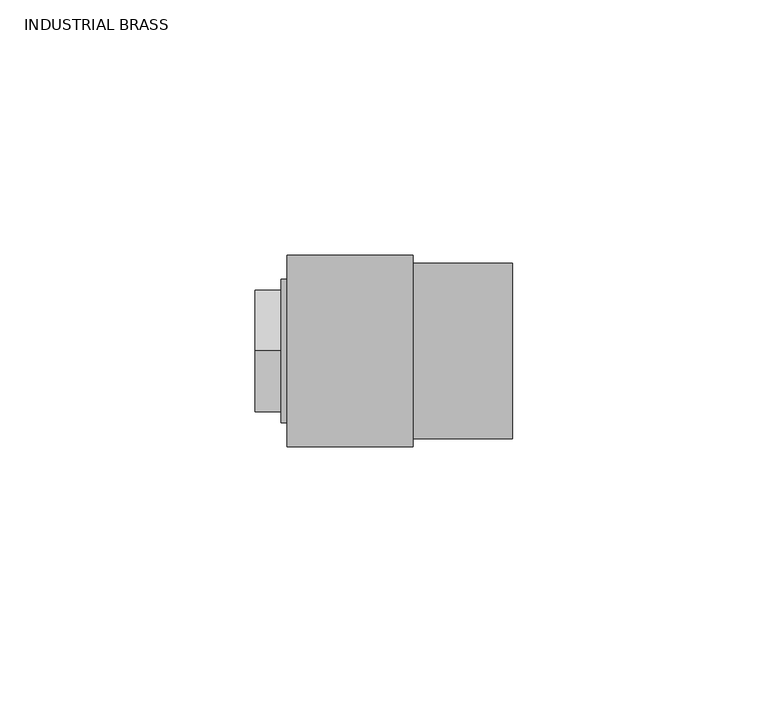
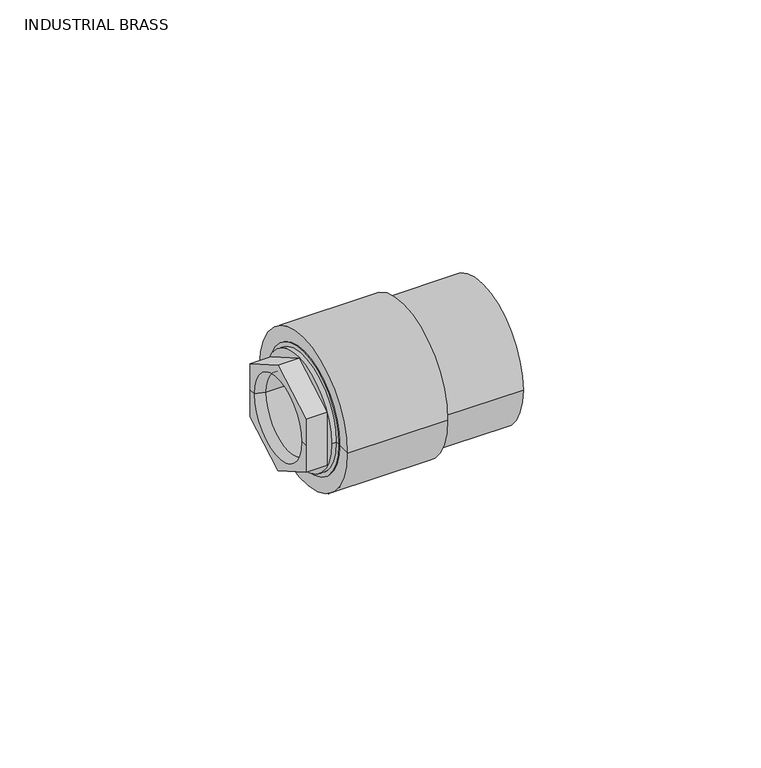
"""IFC4 building model written with IfcOpenShell, lengths in millimetres: valve geometry, Aquatherm - Transition Piece - F HEX : INDUSTRIAL BRASS."""

from ifc_helpers import new_model, si_unit, frame, origin, place, context, project, spatial, polyline, circle_curve, source, transform, mapped, element, save
from ifc_brep_helpers import plane_surface, cylinder_surface, revolved_surface, advanced_brep


def industrial_brass_3dd45f5a(model_context):
    return source(origin(), model_context, "Body", "AdvancedBrep", [
        advanced_brep(
        [(6.35, -9.525, 0.0), (6.35, 9.525, 0.0), (-3.7703125, 9.525, 0.0), (-3.7703125, -9.525, 0.0), (6.35, -10.31875, 0.0), (6.35, 10.31875, 0.0), (9.525, -10.31875, 0.0), (9.525, 10.31875, 0.0), (9.525, -6.35, 0.0), (9.525, 6.35, 0.0), (12.7, -6.35, 0.0), (12.7, 6.35, 0.0), (12.7, -15.113, 0.0), (12.7, 15.113, 0.0), (0.0, -15.113, 0.0), (0.0, 15.113, 0.0), (-6.35, -10.31875, 0.0), (-6.35, 10.31875, 0.0), (-6.35, 11.938, 0.0), (-6.35, 11.938, -6.8924075), (-6.35, 0.0, -13.784815), (-6.35, -11.938, -6.8924075), (-6.35, -11.938, 0.0), (-6.35, -11.938, 6.8924075), (-6.35, 0.0, 13.784815), (-6.35, 11.938, 6.8924075), (0.0, -14.097, 0.0), (0.0, 14.097, 0.0), (-1.190625, -14.097, 0.0), (-1.190625, 14.097, 0.0), (-1.190625, 0.0, -13.784815), (-1.190625, 11.938, -6.8924075), (-1.190625, 11.938, 6.8924075), (-1.190625, 0.0, 13.784815), (-1.190625, -11.938, 6.8924075), (-1.190625, -11.938, -6.8924075)],
        [
            (0, 1, circle_curve(frame((6.35, 0.0, 0.0), z_axis=(1.0, 0.0, 0.0), x_axis=(0.0, 1.0, 0.0)), 9.525)),
            (1, 2),
            (2, 3, circle_curve(frame((-3.7703125, 0.0, 0.0), z_axis=(-1.0, 0.0, 0.0), x_axis=(0.0, 1.0, 0.0)), 9.525)),
            (3, 0),
            (1, 0, circle_curve(frame((6.35, 0.0, 0.0), z_axis=(1.0, 0.0, 0.0), x_axis=(0.0, 1.0, 0.0)), 9.525)),
            (3, 2, circle_curve(frame((-3.7703125, 0.0, 0.0), z_axis=(-1.0, 0.0, 0.0), x_axis=(0.0, 1.0, 0.0)), 9.525)),
            (0, 4),
            (4, 5, circle_curve(frame((6.35, 0.0, 0.0), z_axis=(1.0, 0.0, 0.0), x_axis=(0.0, 1.0, 0.0)), 10.31875)),
            (5, 1),
            (5, 4, circle_curve(frame((6.35, 0.0, 0.0), z_axis=(1.0, 0.0, 0.0), x_axis=(0.0, 1.0, 0.0)), 10.31875)),
            (4, 6),
            (6, 7, circle_curve(frame((9.525, 0.0, 0.0), z_axis=(1.0, 0.0, 0.0), x_axis=(0.0, 1.0, 0.0)), 10.31875)),
            (7, 5),
            (7, 6, circle_curve(frame((9.525, 0.0, 0.0), z_axis=(1.0, 0.0, 0.0), x_axis=(0.0, 1.0, 0.0)), 10.31875)),
            (6, 8),
            (8, 9, circle_curve(frame((9.525, 0.0, 0.0), z_axis=(1.0, 0.0, 0.0), x_axis=(0.0, 1.0, 0.0)), 6.35)),
            (9, 7),
            (9, 8, circle_curve(frame((9.525, 0.0, 0.0), z_axis=(1.0, 0.0, 0.0), x_axis=(0.0, 1.0, 0.0)), 6.35)),
            (8, 10),
            (10, 11, circle_curve(frame((12.7, 0.0, 0.0), z_axis=(1.0, 0.0, 0.0), x_axis=(0.0, 1.0, 0.0)), 6.35)),
            (11, 9),
            (11, 10, circle_curve(frame((12.7, 0.0, 0.0), z_axis=(1.0, 0.0, 0.0), x_axis=(0.0, 1.0, 0.0)), 6.35)),
            (10, 12),
            (12, 13, circle_curve(frame((12.7, 0.0, 0.0), z_axis=(1.0, 0.0, 0.0), x_axis=(0.0, 1.0, 0.0)), 15.113)),
            (13, 11),
            (13, 12, circle_curve(frame((12.7, 0.0, 0.0), z_axis=(1.0, 0.0, 0.0), x_axis=(0.0, 1.0, 0.0)), 15.113)),
            (12, 14),
            (14, 15, circle_curve(frame((0.0, 0.0, 0.0), z_axis=(1.0, 0.0, 0.0), x_axis=(0.0, 1.0, 0.0)), 15.113)),
            (15, 13),
            (15, 14, circle_curve(frame((0.0, 0.0, 0.0), z_axis=(1.0, 0.0, 0.0), x_axis=(0.0, 1.0, 0.0)), 15.113)),
            (16, 17, circle_curve(frame((-6.35, 0.0, 0.0), z_axis=(1.0, 0.0, 0.0), x_axis=(0.0, 1.0, 0.0)), 10.31875)),
            (17, 18),
            (18, 19),
            (19, 20),
            (20, 21),
            (21, 22),
            (22, 16),
            (17, 16, circle_curve(frame((-6.35, 0.0, 0.0), z_axis=(1.0, 0.0, 0.0), x_axis=(0.0, 1.0, 0.0)), 10.31875)),
            (22, 23),
            (23, 24),
            (24, 25),
            (25, 18),
            (2, 17),
            (16, 3),
            (14, 26),
            (26, 27, circle_curve(frame((0.0, 0.0, 0.0), z_axis=(1.0, 0.0, 0.0), x_axis=(0.0, 1.0, 0.0)), 14.097)),
            (27, 15),
            (27, 26, circle_curve(frame((0.0, 0.0, 0.0), z_axis=(1.0, 0.0, 0.0), x_axis=(0.0, 1.0, 0.0)), 14.097)),
            (26, 28),
            (28, 29, circle_curve(frame((-1.190625, 0.0, 0.0), z_axis=(1.0, 0.0, 0.0), x_axis=(0.0, 1.0, 0.0)), 14.097)),
            (29, 27),
            (29, 28, circle_curve(frame((-1.190625, 0.0, 0.0), z_axis=(1.0, 0.0, 0.0), x_axis=(0.0, 1.0, 0.0)), 14.097)),
            (30, 31),
            (31, 32),
            (32, 33),
            (33, 34),
            (34, 35),
            (35, 30),
            (35, 21),
            (20, 30),
            (34, 23),
            (33, 24),
            (32, 25),
            (31, 19),
        ],
        [
            revolved_surface(polyline([(-3.7703125, 9.525, 0.0), (6.35, 9.525, 0.0)]), (-8.1832251, 0.0, 0.0), (-1.0, 0.0, 0.0)),
            plane_surface(frame((6.35, 0.0, 0.0), z_axis=(1.0, 0.0, 0.0), x_axis=(0.0, 1.0, 0.0))),
            revolved_surface(polyline([(6.35, 10.31875, 0.0), (9.525, 10.31875, 0.0)]), (-8.1832251, 0.0, 0.0), (-1.0, 0.0, 0.0)),
            plane_surface(frame((9.525, 0.0, 0.0), z_axis=(-1.0, 0.0, 0.0), x_axis=(0.0, 1.0, 0.0))),
            revolved_surface(polyline([(9.525, 6.35, 0.0), (12.699999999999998, 6.35, 0.0)]), (-8.1832251, 0.0, 0.0), (-1.0, 0.0, 0.0)),
            plane_surface(frame((12.7, 0.0, 0.0), z_axis=(1.0, 0.0, 0.0), x_axis=(0.0, 1.0, 0.0))),
            cylinder_surface(frame((-8.1832251, 0.0, 0.0), z_axis=(-1.0, 0.0, 0.0), x_axis=(0.0, 1.0, 0.0)), 15.113),
            plane_surface(frame((-6.35, 0.0, 0.0), z_axis=(-1.0, 0.0, 0.0), x_axis=(0.0, 1.0, 0.0))),
            revolved_surface(polyline([(-6.35, 10.31875, 0.0), (-3.7703125, 9.525, 0.0)]), (-8.1832251, 0.0, 0.0), (-1.0, 0.0, 0.0)),
            plane_surface(frame((0.0, 0.0, 0.0), z_axis=(-1.0, 0.0, 0.0), x_axis=(0.0, 1.0, 0.0))),
            cylinder_surface(frame((-8.1832251, 0.0, 0.0), z_axis=(-1.0, 0.0, 0.0), x_axis=(0.0, 1.0, 0.0)), 14.097),
            plane_surface(frame((-1.190625, -11.938, -6.8924075), z_axis=(-1.0, 0.0, 0.0), x_axis=(0.0, -0.8660254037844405, 0.49999999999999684))),
            plane_surface(frame((-1.190625, 0.0, -13.784815), z_axis=(0.0, -0.49999999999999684, -0.8660254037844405), x_axis=(-1.0, 0.0, 0.0))),
            plane_surface(frame((-1.190625, -11.938, -6.8924075), z_axis=(0.0, -1.0, 0.0), x_axis=(-1.0, 0.0, 0.0))),
            plane_surface(frame((-1.190625, -11.938, 6.8924075), z_axis=(0.0, -0.5000000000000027, 0.8660254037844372), x_axis=(-1.0, 0.0, 0.0))),
            plane_surface(frame((-1.190625, 0.0, 13.784815), z_axis=(0.0, 0.499999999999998, 0.8660254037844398), x_axis=(-1.0, 0.0, 0.0))),
            plane_surface(frame((-1.190625, 11.938, 6.8924075), z_axis=(0.0, 1.0, 0.0), x_axis=(-1.0, 0.0, 0.0))),
            plane_surface(frame((-1.190625, 11.938, -6.8924075), z_axis=(0.0, 0.5000000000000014, -0.8660254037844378), x_axis=(-1.0, 0.0, 0.0))),
        ],
        [
            (0, [[1, 2, 3, 4]]),
            (0, [[-2, 5, -4, 6]]),
            (1, [[-1, 7, 8, 9]]),
            (1, [[-5, -9, 10, -7]]),
            (2, [[-8, 11, 12, 13]]),
            (2, [[-10, -13, 14, -11]]),
            (3, [[-12, 15, 16, 17]]),
            (3, [[-14, -17, 18, -15]]),
            (4, [[-16, 19, 20, 21]]),
            (4, [[-18, -21, 22, -19]]),
            (5, [[-20, 23, 24, 25]]),
            (5, [[-22, -25, 26, -23]]),
            (6, [[-24, 27, 28, 29]]),
            (6, [[-26, -29, 30, -27]]),
            (7, [[31, 32, 33, 34, 35, 36, 37]]),
            (7, [[38, -37, 39, 40, 41, 42, -32]]),
            (8, [[-3, 43, -31, 44]]),
            (8, [[-6, -44, -38, -43]]),
            (9, [[-28, 45, 46, 47]]),
            (9, [[-30, -47, 48, -45]]),
            (10, [[-46, 49, 50, 51]]),
            (10, [[-48, -51, 52, -49]]),
            (11, [[-50, -52], [53, 54, 55, 56, 57, 58]]),
            (12, [[-58, 59, -35, 60]]),
            (13, [[-57, 61, -39, -36, -59]]),
            (14, [[-56, 62, -40, -61]]),
            (15, [[-55, 63, -41, -62]]),
            (16, [[-54, 64, -33, -42, -63]]),
            (17, [[-53, -60, -34, -64]]),
        ],
    ),
        advanced_brep(
        [(0.0, -18.796, 0.0), (0.0, 18.796, 0.0), (24.638, 18.796, 0.0), (24.638, -18.796, 0.0), (0.0, -15.113, 0.0), (0.0, 15.113, 0.0), (12.7, -15.113, 0.0), (12.7, 15.113, 0.0), (12.7, -6.35, 0.0), (12.7, 6.35, 0.0), (29.718, -6.35, 0.0), (29.718, 6.35, 0.0), (29.718, -10.033, 0.0), (29.718, 10.033, 0.0), (44.196, -10.033, 0.0), (44.196, 10.033, 0.0), (44.196, -17.2085, 0.0), (44.196, 17.2085, 0.0), (24.638, -17.2085, 0.0), (24.638, 17.2085, 0.0)],
        [
            (0, 1, circle_curve(frame((0.0, 0.0, 0.0), z_axis=(1.0, 0.0, 0.0), x_axis=(0.0, 1.0, 0.0)), 18.796)),
            (1, 2),
            (2, 3, circle_curve(frame((24.638, 0.0, 0.0), z_axis=(-1.0, 0.0, 0.0), x_axis=(0.0, 1.0, 0.0)), 18.796)),
            (3, 0),
            (1, 0, circle_curve(frame((0.0, 0.0, 0.0), z_axis=(1.0, 0.0, 0.0), x_axis=(0.0, 1.0, 0.0)), 18.796)),
            (3, 2, circle_curve(frame((24.638, 0.0, 0.0), z_axis=(-1.0, 0.0, 0.0), x_axis=(0.0, 1.0, 0.0)), 18.796)),
            (4, 5, circle_curve(frame((0.0, 0.0, 0.0), z_axis=(1.0, 0.0, 0.0), x_axis=(0.0, 1.0, 0.0)), 15.113)),
            (5, 1),
            (0, 4),
            (5, 4, circle_curve(frame((0.0, 0.0, 0.0), z_axis=(1.0, 0.0, 0.0), x_axis=(0.0, 1.0, 0.0)), 15.113)),
            (6, 7, circle_curve(frame((12.7, 0.0, 0.0), z_axis=(1.0, 0.0, 0.0), x_axis=(0.0, 1.0, 0.0)), 15.113)),
            (7, 5),
            (4, 6),
            (7, 6, circle_curve(frame((12.7, 0.0, 0.0), z_axis=(1.0, 0.0, 0.0), x_axis=(0.0, 1.0, 0.0)), 15.113)),
            (8, 9, circle_curve(frame((12.7, 0.0, 0.0), z_axis=(1.0, 0.0, 0.0), x_axis=(0.0, 1.0, 0.0)), 6.35)),
            (9, 7),
            (6, 8),
            (9, 8, circle_curve(frame((12.7, 0.0, 0.0), z_axis=(1.0, 0.0, 0.0), x_axis=(0.0, 1.0, 0.0)), 6.35)),
            (10, 11, circle_curve(frame((29.718, 0.0, 0.0), z_axis=(1.0, 0.0, 0.0), x_axis=(0.0, 1.0, 0.0)), 6.35)),
            (11, 9),
            (8, 10),
            (11, 10, circle_curve(frame((29.718, 0.0, 0.0), z_axis=(1.0, 0.0, 0.0), x_axis=(0.0, 1.0, 0.0)), 6.35)),
            (12, 13, circle_curve(frame((29.718, 0.0, 0.0), z_axis=(1.0, 0.0, 0.0), x_axis=(0.0, 1.0, 0.0)), 10.033)),
            (13, 11),
            (10, 12),
            (13, 12, circle_curve(frame((29.718, 0.0, 0.0), z_axis=(1.0, 0.0, 0.0), x_axis=(0.0, 1.0, 0.0)), 10.033)),
            (14, 15, circle_curve(frame((44.196, 0.0, 0.0), z_axis=(1.0, 0.0, 0.0), x_axis=(0.0, 1.0, 0.0)), 10.033)),
            (15, 13),
            (12, 14),
            (15, 14, circle_curve(frame((44.196, 0.0, 0.0), z_axis=(1.0, 0.0, 0.0), x_axis=(0.0, 1.0, 0.0)), 10.033)),
            (16, 17, circle_curve(frame((44.196, 0.0, 0.0), z_axis=(1.0, 0.0, 0.0), x_axis=(0.0, 1.0, 0.0)), 17.2085)),
            (17, 15),
            (14, 16),
            (17, 16, circle_curve(frame((44.196, 0.0, 0.0), z_axis=(1.0, 0.0, 0.0), x_axis=(0.0, 1.0, 0.0)), 17.2085)),
            (18, 19, circle_curve(frame((24.638, 0.0, 0.0), z_axis=(1.0, 0.0, 0.0), x_axis=(0.0, 1.0, 0.0)), 17.2085)),
            (19, 17),
            (16, 18),
            (19, 18, circle_curve(frame((24.638, 0.0, 0.0), z_axis=(1.0, 0.0, 0.0), x_axis=(0.0, 1.0, 0.0)), 17.2085)),
            (2, 19),
            (18, 3),
        ],
        [
            cylinder_surface(frame((-14.4531162, 0.0, 0.0), z_axis=(-1.0, 0.0, 0.0), x_axis=(0.0, 1.0, 0.0)), 18.796),
            plane_surface(frame((0.0, 0.0, 0.0), z_axis=(-1.0, 0.0, 0.0), x_axis=(0.0, 1.0, 0.0))),
            revolved_surface(polyline([(0.0, 15.113, 0.0), (12.7, 15.113, 0.0)]), (-14.4531162, 0.0, 0.0), (-1.0, 0.0, 0.0)),
            plane_surface(frame((12.7, 0.0, 0.0), z_axis=(-1.0, 0.0, 0.0), x_axis=(0.0, 1.0, 0.0))),
            revolved_surface(polyline([(12.7, 6.35, 0.0), (29.718, 6.35, 0.0)]), (-14.4531162, 0.0, 0.0), (-1.0, 0.0, 0.0)),
            plane_surface(frame((29.718, 0.0, 0.0), z_axis=(1.0, 0.0, 0.0), x_axis=(0.0, 1.0, 0.0))),
            revolved_surface(polyline([(29.718, 10.033, 0.0), (44.196, 10.033, 0.0)]), (-14.4531162, 0.0, 0.0), (-1.0, 0.0, 0.0)),
            plane_surface(frame((44.196, 0.0, 0.0), z_axis=(1.0, 0.0, 0.0), x_axis=(0.0, 1.0, 0.0))),
            cylinder_surface(frame((-14.4531162, 0.0, 0.0), z_axis=(-1.0, 0.0, 0.0), x_axis=(0.0, 1.0, 0.0)), 17.2085),
            plane_surface(frame((24.638, 0.0, 0.0), z_axis=(1.0, 0.0, 0.0), x_axis=(0.0, 1.0, 0.0))),
        ],
        [
            (0, [[1, 2, 3, 4]]),
            (0, [[5, -4, 6, -2]]),
            (1, [[7, 8, -1, 9]]),
            (1, [[10, -9, -5, -8]]),
            (2, [[11, 12, -7, 13]]),
            (2, [[14, -13, -10, -12]]),
            (3, [[15, 16, -11, 17]]),
            (3, [[18, -17, -14, -16]]),
            (4, [[19, 20, -15, 21]]),
            (4, [[22, -21, -18, -20]]),
            (5, [[23, 24, -19, 25]]),
            (5, [[26, -25, -22, -24]]),
            (6, [[27, 28, -23, 29]]),
            (6, [[30, -29, -26, -28]]),
            (7, [[31, 32, -27, 33]]),
            (7, [[34, -33, -30, -32]]),
            (8, [[35, 36, -31, 37]]),
            (8, [[38, -37, -34, -36]]),
            (9, [[-3, 39, -35, 40]]),
            (9, [[-6, -40, -38, -39]]),
        ],
    ),
    ])


if __name__ == "__main__":
    model = new_model("IFC4")
    model_context = context("Model", 3, world=origin())
    ifc_project = project(units=[si_unit("LENGTHUNIT", "METRE", prefix="MILLI")], contexts=[model_context])
    site = spatial("IfcSite", under=ifc_project)
    building = spatial("IfcBuilding", under=site)
    placement = place(None, origin())
    industrial_brass_shape = industrial_brass_3dd45f5a(model_context)
    element("IfcValve", 1, ObjectType="Aquatherm - Transition Piece - F HEX : INDUSTRIAL BRASS", at=placement, inside=building, context=model_context, shape_type="MappedRepresentation", body=[
        mapped(industrial_brass_shape, transform((0.0, 0.0, 0.0), x_axis=(1.0, 0.0, 0.0), y_axis=(0.0, 1.0, 0.0), z_axis=(0.0, 0.0, 1.0))),
    ])
    save(model, "model.ifc")
